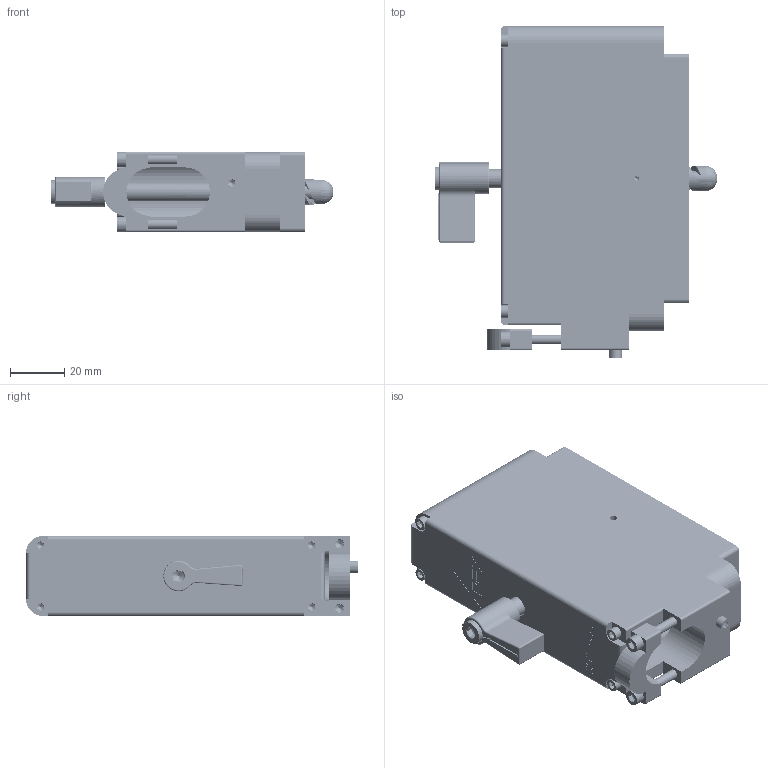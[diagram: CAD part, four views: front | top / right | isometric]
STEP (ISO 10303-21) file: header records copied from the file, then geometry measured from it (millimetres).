
FILE_DESCRIPTION(/* description */ (''),/* implementation_level */ '2;1');
FILE_NAME(/* name */ 'F:\CAD\CAD COMPLETE\web site project\APEX\562611-RevB-STP\562611-RevB-STP.stp',/* time_stamp */ '2014-09-23T08:11:19+01:00',/* author */ ('davecooper'),/* organization */ (''),/* preprocessor_version */ 'ST-DEVELOPER v15.2',/* originating_system */ 'Autodesk Inventor 2014',/* authorisation */ '');
FILE_SCHEMA (('AUTOMOTIVE_DESIGN { 1 0 10303 214 3 1 1 }'));
Products named in the file (1): 562611-CU
Bounding box: 104.58 x 122.7 x 29.62 mm (x, y, z)
Surface area: 85932.5 mm2 (no closed solid volume)
Topology: 0 solids, 33 shells, 4144 faces, 10278 edges, 6774 vertices
Faces by surface type: plane 2496, bspline 846, cylinder 708, cone 72, torus 16, sphere 6
Full cylindrical faces by diameter (mm): 0.002 x1, 0.812 x7, 1.778 x156, 2.159 x11, 2.261 x312, 2.642 x3, 2.845 x11, 3.175 x12, 3.277 x4, 3.505 x3, 3.632 x2, 3.658 x2, 4.013 x2, 4.343 x1, 4.572 x4, 4.623 x2, 4.648 x7, 5.309 x2, 5.4 x1, 5.486 x1, 5.573 x4, 5.74 x2, 5.867 x3, 5.994 x6, 6.985 x3, 7.036 x1, 7.3 x1, 7.925 x1, 8.712 x1, 9.2 x1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
Entity records: 129343 total; most frequent: CARTESIAN_POINT 33405, ORIENTED_EDGE 19172, DIRECTION 15950, EDGE_CURVE 9586, VERTEX_POINT 6726, LINE 6126, VECTOR 6126, EDGE_LOOP 5724
